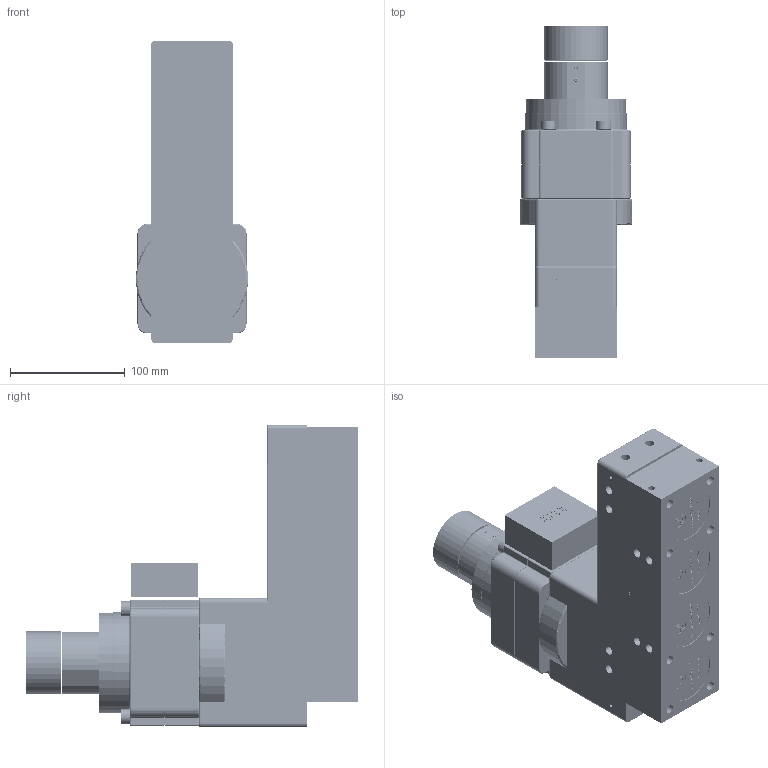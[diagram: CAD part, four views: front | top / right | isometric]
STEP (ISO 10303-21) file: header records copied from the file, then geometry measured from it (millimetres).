
FILE_DESCRIPTION (( 'STEP AP214' ), '1' );
FILE_NAME ('81401488_CFM.STEP', '2024-07-31T21:18:24', ( '' ), ( '' ), 'SwSTEP 2.0', 'SolidWorks 2022', '' );
FILE_SCHEMA (( 'AUTOMOTIVE_DESIGN' ));
Length unit declared in the file: millimetre
Products named in the file (1): 81401488_CFM
Bounding box: 97.65 x 289.07 x 263.91 mm (x, y, z)
Volume: 2857059.3 mm3; surface area: 318273 mm2
Topology: 24 solids, 30 shells, 5622 faces, 14903 edges, 9781 vertices
Faces by surface type: plane 2414, cylinder 1556, bspline 1306, cone 286, torus 52, sphere 8
Entity records: 329674 total; most frequent: CARTESIAN_POINT 145228, ORIENTED_EDGE 29746, DIRECTION 19854, EDGE_CURVE 14873, VERTEX_POINT 9781, LINE 8496, VECTOR 8496, EDGE_LOOP 6118
